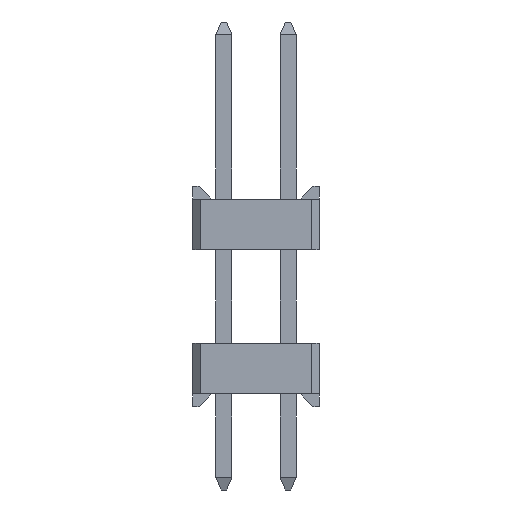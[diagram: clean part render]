
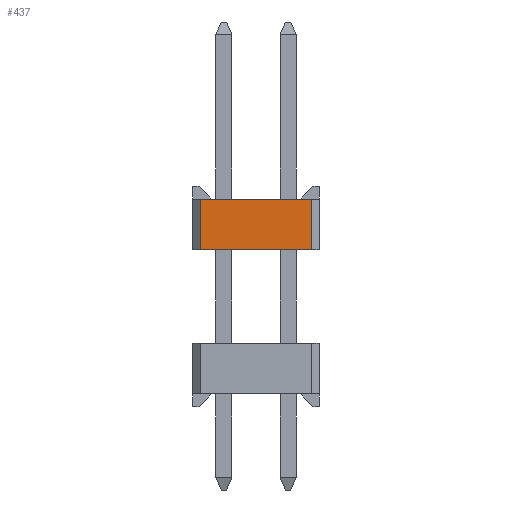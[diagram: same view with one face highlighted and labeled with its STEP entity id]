
A CAD part, left-side view. The second image highlights one B-rep face of the part: STEP entity #437.
In plain terms, the highlighted planar face has unit normal (-1, 0, 0).
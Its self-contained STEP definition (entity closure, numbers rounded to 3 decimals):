
#437=ADVANCED_FACE('',(#5629),#3033,.T.);
#3033=PLANE('',#49582);
#5629=FACE_OUTER_BOUND('',#8361,.T.);
#8361=EDGE_LOOP('',(#13634,#13635,#13636,#13637));
#13634=ORIENTED_EDGE('',*,*,#31392,.T.);
#13635=ORIENTED_EDGE('',*,*,#31031,.T.);
#13636=ORIENTED_EDGE('',*,*,#31393,.F.);
#13637=ORIENTED_EDGE('',*,*,#31394,.T.);
#26515=VERTEX_POINT('',#68153);
#26516=VERTEX_POINT('',#68155);
#26766=VERTEX_POINT('',#68768);
#26767=VERTEX_POINT('',#68770);
#31031=EDGE_CURVE('',#26516,#26515,#37855,.T.);
#31392=EDGE_CURVE('',#26766,#26516,#38216,.T.);
#31393=EDGE_CURVE('',#26767,#26515,#38217,.T.);
#31394=EDGE_CURVE('',#26767,#26766,#38218,.T.);
#37855=LINE('',#68154,#44679);
#38216=LINE('',#68767,#45040);
#38217=LINE('',#68769,#45041);
#38218=LINE('',#68771,#45042);
#44679=VECTOR('',#54360,1.);
#45040=VECTOR('',#54725,1.);
#45041=VECTOR('',#54726,1.);
#45042=VECTOR('',#54727,1.);
#49582=AXIS2_PLACEMENT_3D('',#68772,#54728,#54729);
#54360=DIRECTION('',(0.,1.,0.));
#54725=DIRECTION('',(0.,0.,1.));
#54726=DIRECTION('',(0.,0.,1.));
#54727=DIRECTION('',(0.,-1.,0.));
#54728=DIRECTION('',(-1.,0.,0.));
#54729=DIRECTION('',(0.,0.,1.));
#68153=CARTESIAN_POINT('',(0.,4.7,2.));
#68154=CARTESIAN_POINT('',(0.,2.5,2.));
#68155=CARTESIAN_POINT('',(0.,0.3,2.));
#68767=CARTESIAN_POINT('',(0.,0.3,-98.));
#68768=CARTESIAN_POINT('',(0.,0.3,0.));
#68769=CARTESIAN_POINT('',(0.,4.7,-98.));
#68770=CARTESIAN_POINT('',(0.,4.7,0.));
#68771=CARTESIAN_POINT('',(0.,2.5,0.));
#68772=CARTESIAN_POINT('',(0.,2.5,0.));
